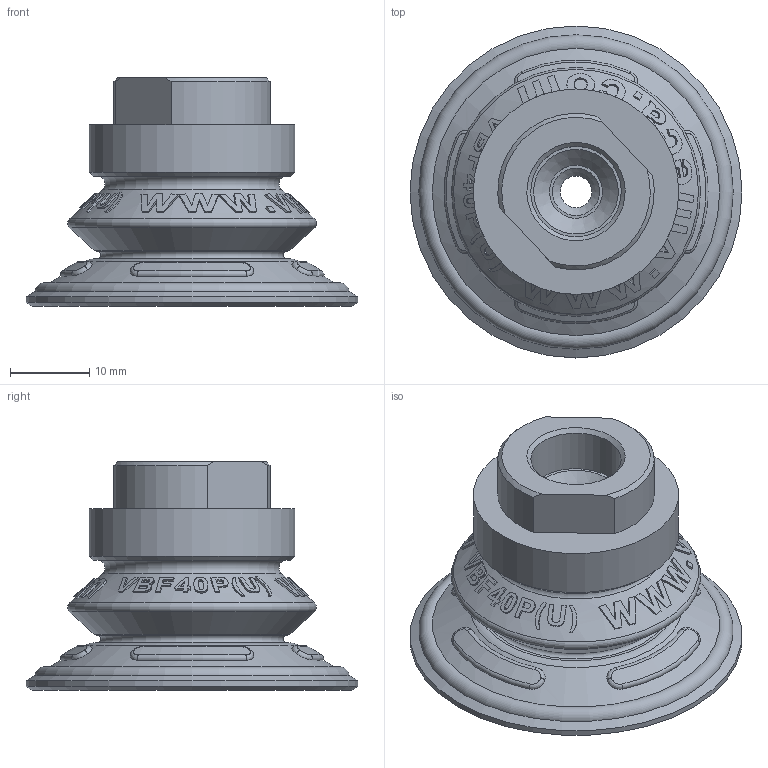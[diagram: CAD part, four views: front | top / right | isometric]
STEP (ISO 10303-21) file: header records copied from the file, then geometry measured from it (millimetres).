
FILE_DESCRIPTION( ( 'Unknown' ), '1' );
FILE_NAME( 'C:/Documents and Settings/茄惫春概平/My Documents/诀公/3d/VBF40/VBF40 PU 14F.stp', 'Unknown', ( 'Unknown' ), ( 'Unknown' ), 'PSStep 10.0', 'Unknown', ' ' );
FILE_SCHEMA( ( 'automotive_design' ) );
Length unit declared in the file: millimetre
Products named in the file (1): VBF40
Bounding box: 42 x 42 x 28.94 mm (x, y, z)
Volume: 9767.6 mm3; surface area: 7840.7 mm2
Topology: 1 solids, 2 shells, 456 faces, 1173 edges, 762 vertices
Faces by surface type: bspline 180, plane 150, cylinder 59, cone 49, torus 18
Full cylindrical faces by diameter (mm): 4 x1, 6 x1, 6.7 x1, 11.445 x1, 13.5 x1, 15.5 x1, 16.1 x1, 26 x1, 42 x1
Entity records: 26882 total; most frequent: CARTESIAN_POINT 13651, ORIENTED_EDGE 2262, DIRECTION 1416, EDGE_CURVE 1131, VERTEX_POINT 757, EDGE_LOOP 538, AXIS2_PLACEMENT_3D 516, B_SPLINE_CURVE_WITH_KNOTS 508
